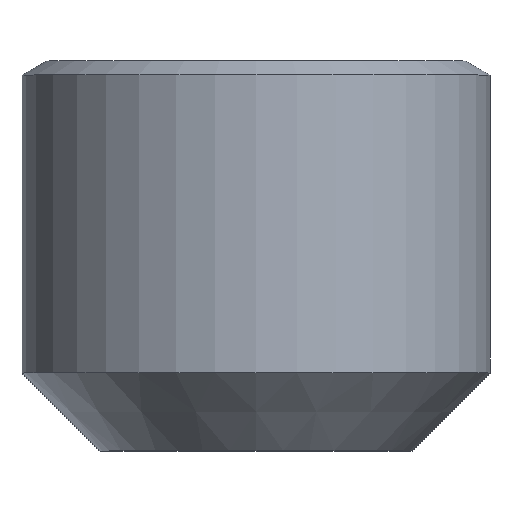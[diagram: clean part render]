
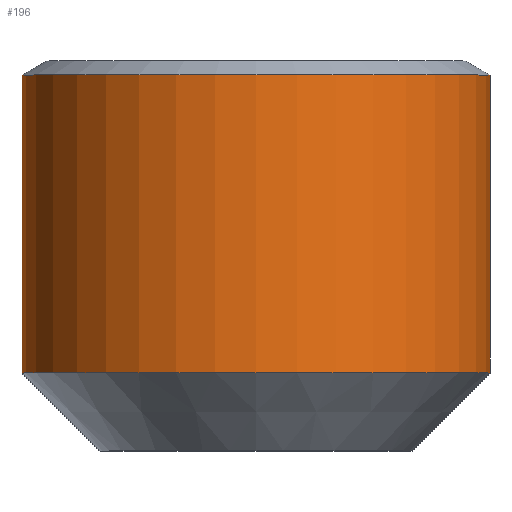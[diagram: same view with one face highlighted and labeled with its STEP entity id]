
A CAD part, top view. The second image highlights one B-rep face of the part: STEP entity #196.
In plain terms, the highlighted cylindrical face has radius 3 mm (diameter 6 mm), a full revolution.
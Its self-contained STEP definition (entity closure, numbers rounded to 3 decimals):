
#31=CYLINDRICAL_SURFACE('',#230,3.);
#33=FACE_OUTER_BOUND('',#45,.T.);
#45=EDGE_LOOP('',(#142,#143,#144,#145));
#58=LINE('',#303,#74);
#74=VECTOR('',#256,3.);
#90=CIRCLE('',#229,3.);
#91=CIRCLE('',#231,3.);
#94=VERTEX_POINT('',#297);
#95=VERTEX_POINT('',#301);
#113=EDGE_CURVE('',#94,#94,#90,.T.);
#114=EDGE_CURVE('',#95,#95,#91,.T.);
#115=EDGE_CURVE('',#95,#94,#58,.T.);
#142=ORIENTED_EDGE('',*,*,#114,.F.);
#143=ORIENTED_EDGE('',*,*,#115,.T.);
#144=ORIENTED_EDGE('',*,*,#113,.F.);
#145=ORIENTED_EDGE('',*,*,#115,.F.);
#196=ADVANCED_FACE('',(#33),#31,.T.);
#229=AXIS2_PLACEMENT_3D('',#299,#250,#251);
#230=AXIS2_PLACEMENT_3D('',#300,#252,#253);
#231=AXIS2_PLACEMENT_3D('',#302,#254,#255);
#250=DIRECTION('center_axis',(0.,-1.,0.));
#251=DIRECTION('ref_axis',(1.,0.,0.));
#252=DIRECTION('center_axis',(0.,1.,0.));
#253=DIRECTION('ref_axis',(1.,0.,0.));
#254=DIRECTION('center_axis',(0.,1.,0.));
#255=DIRECTION('ref_axis',(1.,0.,0.));
#256=DIRECTION('',(0.,-1.,0.));
#297=CARTESIAN_POINT('',(-3.,1.,0.));
#299=CARTESIAN_POINT('Origin',(0.,1.,0.));
#300=CARTESIAN_POINT('Origin',(0.,0.,0.));
#301=CARTESIAN_POINT('',(-3.,4.82,0.));
#302=CARTESIAN_POINT('Origin',(0.,4.82,0.));
#303=CARTESIAN_POINT('',(-3.,0.,0.));
